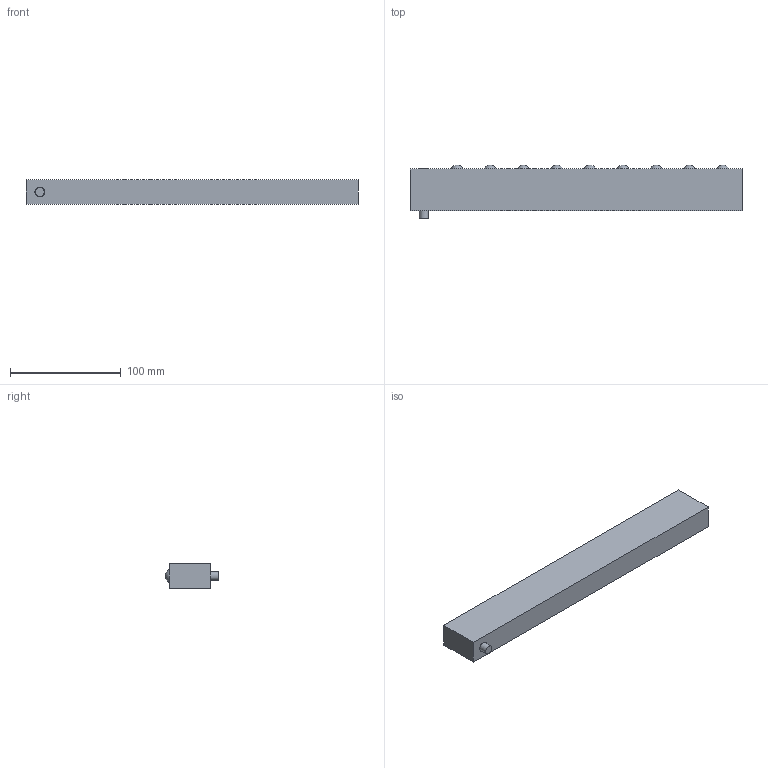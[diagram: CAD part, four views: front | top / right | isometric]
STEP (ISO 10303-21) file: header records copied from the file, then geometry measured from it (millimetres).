
FILE_DESCRIPTION(/* description */ (''),/* implementation_level */ '2;1');
FILE_NAME(/* name */ 'V:\Shrinkwrap\EMB\EMB - SHRINKWRAP\EMB22\EMB22-9_Shrinkwrap_1.stp',/* time_stamp */ '2022-08-12T10:28:14+02:00',/* author */ ('cw'),/* organization */ (''),/* preprocessor_version */ 'ST-DEVELOPER v17',/* originating_system */ 'Autodesk Inventor 2019',/* authorisation */ '');
FILE_SCHEMA (('AUTOMOTIVE_DESIGN { 1 0 10303 214 3 1 1 }'));
Length unit declared in the file: millimetre
Products named in the file (1): EMB22-9_Shrinkwrap_1
Bounding box: 300 x 48.46 x 21.8 mm (x, y, z)
Volume: 246292.2 mm3; surface area: 40045.5 mm2
Topology: 1 solids, 1 shells, 23 faces, 37 edges, 31 vertices
Faces by surface type: plane 10, sphere 9, cylinder 4
Full cylindrical faces by diameter (mm): 8 x1, 9 x1, 13 x1, 14 x1
Entity records: 637 total; most frequent: DIRECTION 102, CARTESIAN_POINT 90, ORIENTED_EDGE 70, AXIS2_PLACEMENT_3D 43, EDGE_LOOP 36, EDGE_CURVE 35, VERTEX_POINT 27, STYLED_ITEM 26
